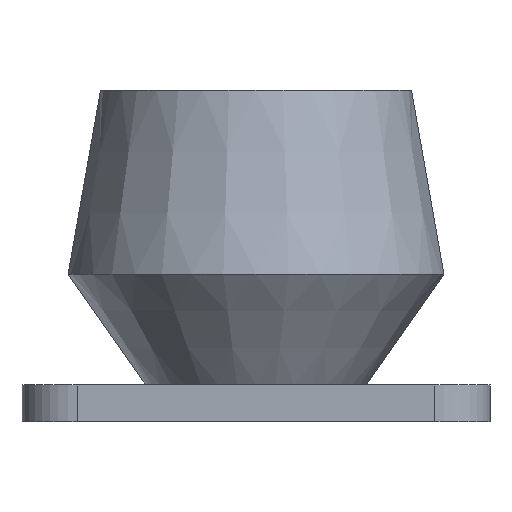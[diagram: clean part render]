
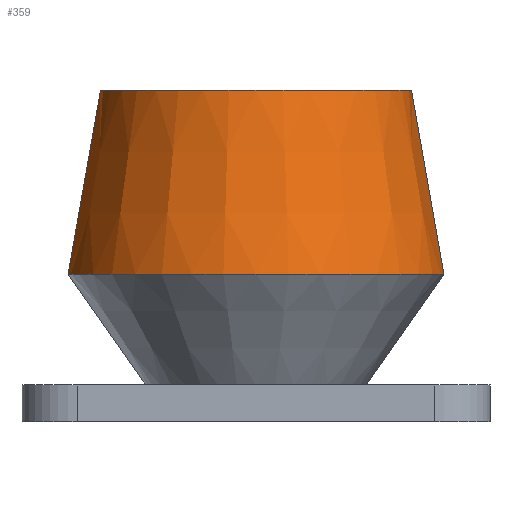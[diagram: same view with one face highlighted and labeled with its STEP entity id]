
A CAD part, front view. The second image highlights one B-rep face of the part: STEP entity #359.
In plain terms, the highlighted conical face has half-angle 10 degrees and reference radius 10.201 mm.
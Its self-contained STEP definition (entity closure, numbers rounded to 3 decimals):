
#41=FACE_OUTER_BOUND('',#64,.T.);
#64=EDGE_LOOP('',(#269,#270,#271,#272));
#88=LINE('',#565,#120);
#91=LINE('',#576,#123);
#120=VECTOR('',#452,10.);
#123=VECTOR('',#463,10.);
#153=CIRCLE('',#402,8.438);
#154=CIRCLE('',#403,10.201);
#169=VERTEX_POINT('',#558);
#172=VERTEX_POINT('',#563);
#175=VERTEX_POINT('',#573);
#176=VERTEX_POINT('',#575);
#206=EDGE_CURVE('',#172,#169,#88,.T.);
#211=EDGE_CURVE('',#176,#175,#91,.T.);
#213=EDGE_CURVE('',#175,#169,#153,.T.);
#214=EDGE_CURVE('',#176,#172,#154,.T.);
#269=ORIENTED_EDGE('',*,*,#213,.T.);
#270=ORIENTED_EDGE('',*,*,#206,.F.);
#271=ORIENTED_EDGE('',*,*,#214,.F.);
#272=ORIENTED_EDGE('',*,*,#211,.T.);
#350=CONICAL_SURFACE('',#401,10.201,0.175);
#359=ADVANCED_FACE('',(#41),#350,.T.);
#401=AXIS2_PLACEMENT_3D('',#578,#465,#466);
#402=AXIS2_PLACEMENT_3D('',#579,#467,#468);
#403=AXIS2_PLACEMENT_3D('',#580,#469,#470);
#452=DIRECTION('',(0.174,0.,0.985));
#463=DIRECTION('',(-0.174,0.,0.985));
#465=DIRECTION('center_axis',(0.,0.,-1.));
#466=DIRECTION('ref_axis',(1.,0.,0.));
#467=DIRECTION('center_axis',(0.,0.,-1.));
#468=DIRECTION('ref_axis',(1.,0.,0.));
#469=DIRECTION('center_axis',(0.,0.,-1.));
#470=DIRECTION('ref_axis',(1.,0.,0.));
#558=CARTESIAN_POINT('',(-8.438,0.,16.));
#563=CARTESIAN_POINT('',(-10.201,0.,6.));
#565=CARTESIAN_POINT('',(-10.201,0.,6.));
#573=CARTESIAN_POINT('',(8.438,0.,16.));
#575=CARTESIAN_POINT('',(10.201,0.,6.));
#576=CARTESIAN_POINT('',(10.201,0.,6.));
#578=CARTESIAN_POINT('Origin',(0.,0.,6.));
#579=CARTESIAN_POINT('Origin',(0.,0.,16.));
#580=CARTESIAN_POINT('Origin',(0.,0.,6.));
